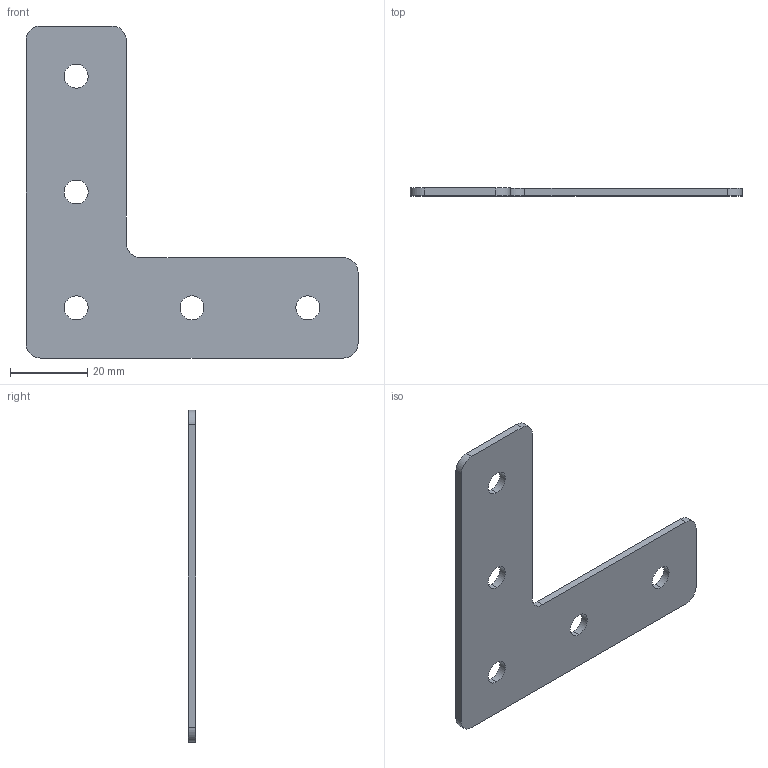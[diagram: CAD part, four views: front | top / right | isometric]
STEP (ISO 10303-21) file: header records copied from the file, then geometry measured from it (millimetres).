
FILE_DESCRIPTION (( 'STEP AP203' ), '1' );
FILE_NAME ('Ã-5-30.STEP', '2016-07-19T13:03:31', ( 'RosInstal-MKM' ), ( '' ), 'SwSTEP 2.0', 'SolidWorks 2014', '' );
FILE_SCHEMA (( 'CONFIG_CONTROL_DESIGN' ));
Length unit declared in the file: millimetre
Products named in the file (1): ﾃ-5-30
Bounding box: 86 x 2 x 86 mm (x, y, z)
Volume: 7265.7 mm3; surface area: 8129 mm2
Topology: 1 solids, 1 shells, 24 faces, 66 edges, 44 vertices
Faces by surface type: cylinder 16, plane 8
Entity records: 879 total; most frequent: DIRECTION 148, CARTESIAN_POINT 135, ORIENTED_EDGE 132, EDGE_CURVE 66, AXIS2_PLACEMENT_3D 57, VERTEX_POINT 44, LINE 34, VECTOR 34
